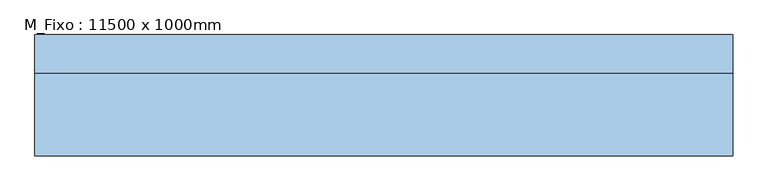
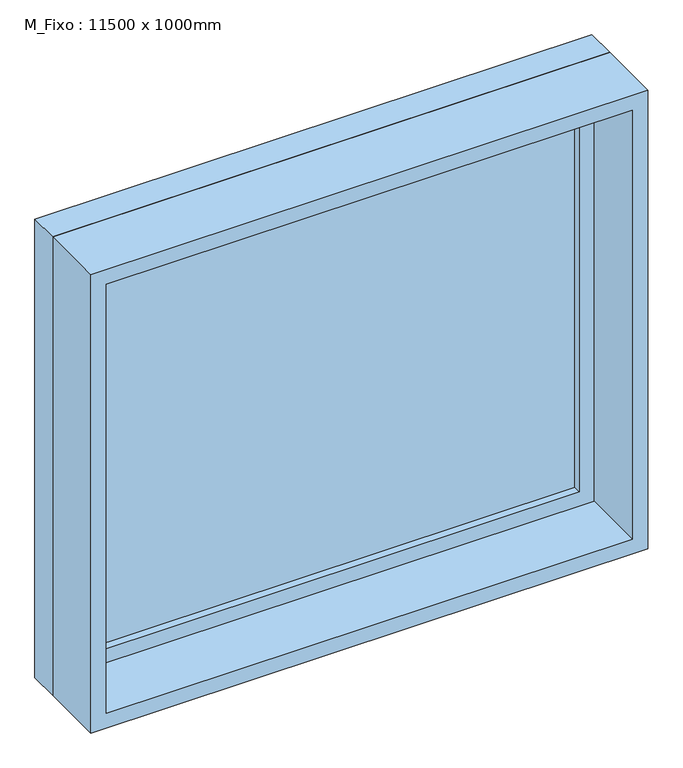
"""IFC4 building model written with IfcOpenShell, lengths in millimetres: window geometry, M_Fixo : 11500 x 1000mm."""

from ifc_helpers import new_model, si_unit, frame, origin, place, context, project, spatial, polyline, outline, extrude, source, transform, mapped, element, save


def m_fixo_11500_x_1000mm_5ca4aec9(model_context):
    return source(origin(), model_context, "Body", "SweptSolid", [
        extrude(outline(polyline([(-512.0, 78.0), (512.0, 78.0), (512.0, 66.0), (-512.0, 66.0), (-512.0, 78.0)])), frame((0.0, 0.0, 1463.0), z_axis=(0.0, 0.0, 1.0), x_axis=(1.0, 0.0, 0.0)), (0.0, 0.0, 1.0), 874.0),
        extrude(outline(polyline([(2381.0, -556.0), (1419.0, -556.0), (1419.0, 556.0), (2381.0, 556.0), (2381.0, -556.0)]), holes=[polyline([(2337.0, -512.0), (2337.0, 512.0), (1463.0, 512.0), (1463.0, -512.0), (2337.0, -512.0)])]), frame((0.0, 50.0, 0.0), z_axis=(0.0, 1.0, 0.0), x_axis=(0.0, 0.0, 1.0)), (0.0, 0.0, 1.0), 44.0),
        extrude(outline(polyline([(2400.0, -575.0), (1400.0, -575.0), (1400.0, 575.0), (2400.0, 575.0), (2400.0, -575.0)]), holes=[polyline([(2381.0, -556.0), (2381.0, 556.0), (1419.0, 556.0), (1419.0, -556.0), (2381.0, -556.0)])]), frame((0.0, 50.0, 0.0), z_axis=(0.0, 1.0, 0.0), x_axis=(0.0, 0.0, 1.0)), (0.0, 0.0, 1.0), 63.0),
        extrude(outline(polyline([(2400.0, -575.0), (1400.0, -575.0), (1400.0, 575.0), (2400.0, 575.0), (2400.0, -575.0)]), holes=[polyline([(2368.0, -543.0), (2368.0, 543.0), (1432.0, 543.0), (1432.0, -543.0), (2368.0, -543.0)])]), frame((0.0, -87.0, 0.0), z_axis=(0.0, 1.0, 0.0), x_axis=(0.0, 0.0, 1.0)), (0.0, 0.0, 1.0), 137.0),
    ])


if __name__ == "__main__":
    model = new_model("IFC4")
    model_context = context("Model", 3, world=origin())
    ifc_project = project(units=[si_unit("LENGTHUNIT", "METRE", prefix="MILLI")], contexts=[model_context])
    site = spatial("IfcSite", under=ifc_project)
    building = spatial("IfcBuilding", under=site)
    placement = place(None, origin())
    m_fixo_11500_x_1000mm_shape = m_fixo_11500_x_1000mm_5ca4aec9(model_context)
    element("IfcWindow", 1, ObjectType="M_Fixo : 11500 x 1000mm", at=placement, inside=building, context=model_context, shape_type="MappedRepresentation", body=[
        mapped(m_fixo_11500_x_1000mm_shape, transform((0.0, 0.0, 0.0), x_axis=(1.0, 0.0, 0.0), y_axis=(0.0, 1.0, 0.0), z_axis=(0.0, 0.0, 1.0))),
    ])
    save(model, "model.ifc")
